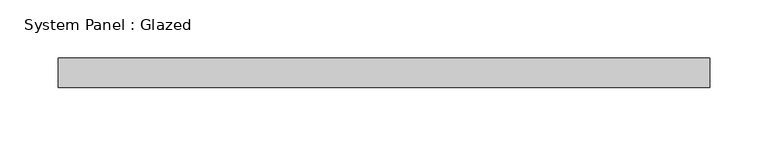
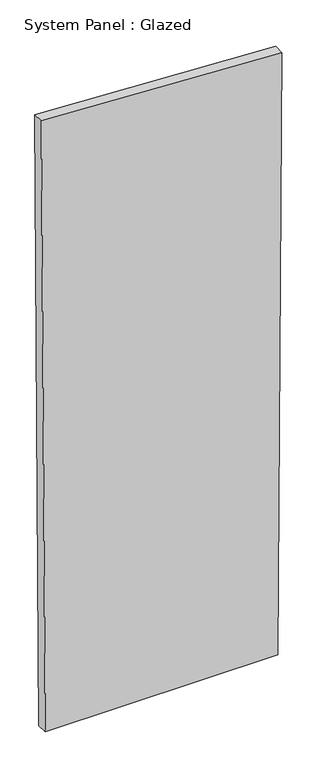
"""IFC4 building model written with IfcOpenShell, lengths in millimetres: plate geometry, System Panel : Glazed."""

import ifcopenshell
import ifcopenshell.guid

model = None  # the IFC model being written
_history = None  # IfcOwnerHistory: only IFC2X3 demands one
_inside = {}  # id of a spatial element -> (the spatial element, [elements in it])
_under = {}  # id of a project, library or spatial element -> (it, [spatial elements below it])
_declared = {}  # id of a project -> (the project, [libraries it declares])
_typed = {}  # id of a type object -> (the type object, [elements of that type])
_made_of = {}  # id of a material, layer set ... -> (it, [elements and type objects made of it])


def new_model(schema):
    """Start an empty IFC model of exactly this schema.

    Asked for "IFC4X3", IfcOpenShell would pick the latest addendum, in which some entities
    have other attributes; the version numbers below select the first issue.
    IFC2X3 requires an IfcOwnerHistory on every rooted entity: one is made here for all.
    """
    global model, _history
    if schema == "IFC4X3":
        model = ifcopenshell.file(schema_version=(4, 3, 0, 0))
    else:
        model = ifcopenshell.file(schema=schema)
    _inside.clear()
    _under.clear()
    _declared.clear()
    _typed.clear()
    _made_of.clear()
    _history = None
    if model.schema == "IFC2X3":
        org = make("IfcOrganization", Name="unknown")
        user = make(
            "IfcPersonAndOrganization",
            ThePerson=make("IfcPerson", FamilyName="unknown"),
            TheOrganization=org,
        )
        app = make(
            "IfcApplication",
            ApplicationDeveloper=org,
            Version="unknown",
            ApplicationFullName="unknown",
            ApplicationIdentifier="unknown",
        )
        _history = make(
            "IfcOwnerHistory",
            OwningUser=user,
            OwningApplication=app,
            ChangeAction="ADDED",
            CreationDate=0,
        )
    return model


def make(cls, **values):
    """One entity of the class cls with the attributes given. An attribute that is None is left unset."""
    return model.create_entity(
        cls, **{name: value for name, value in values.items() if value is not None}
    )


def rooted(cls, **values):
    """An entity with a GlobalId (a new one), such as an element, a storey or a relation."""
    return make(cls, GlobalId=ifcopenshell.guid.new(), OwnerHistory=_history, **values)


def si_unit(unit_type, name, prefix=None):
    """IfcSIUnit, for example si_unit("LENGTHUNIT", "METRE", prefix="MILLI")."""
    return make("IfcSIUnit", UnitType=unit_type, Prefix=prefix, Name=name)


def assignment(units):
    """IfcUnitAssignment: the units of a project."""
    return None if units is None else make("IfcUnitAssignment", Units=units)


def point(xyz):
    """IfcCartesianPoint."""
    return None if xyz is None else make("IfcCartesianPoint", Coordinates=xyz)


def direction(xyz):
    """IfcDirection."""
    return None if xyz is None else make("IfcDirection", DirectionRatios=xyz)


def frame(location, z_axis=None, x_axis=None):
    """IfcAxis2Placement3D, a coordinate frame: its origin and axes. An axis left out is left unset."""
    return make(
        "IfcAxis2Placement3D",
        Location=point(location),
        Axis=direction(z_axis),
        RefDirection=direction(x_axis),
    )


def origin():
    """The frame at (0, 0, 0) with its axes left unset."""
    return frame((0.0, 0.0, 0.0))


def place(relative_to, where):
    """IfcLocalPlacement: puts the frame where relative to a parent placement (None: the world)."""
    return make(
        "IfcLocalPlacement", PlacementRelTo=relative_to, RelativePlacement=where
    )


def context(
    kind, dimensions, precision=None, world=None, true_north=None, identifier=None
):
    """IfcGeometricRepresentationContext, for example the 3D "Model" context."""
    return make(
        "IfcGeometricRepresentationContext",
        ContextIdentifier=identifier,
        ContextType=kind,
        CoordinateSpaceDimension=dimensions,
        Precision=precision,
        WorldCoordinateSystem=world,
        TrueNorth=true_north,
    )


def project(units=None, contexts=None):
    """IfcProject with its units and contexts."""
    return rooted(
        "IfcProject",
        Name="project",
        RepresentationContexts=contexts,
        UnitsInContext=assignment(units),
    )


def spatial(cls, under=None, at=None, **own):
    """A site, building, storey or space (cls), placed at a placement, below another one or the project."""
    s = rooted(cls, ObjectPlacement=at, **own)
    if under is not None:
        _under.setdefault(under.id(), (under, []))[1].append(s)
    return s


def polyline(points):
    """IfcPolyline through the points."""
    return make("IfcPolyline", Points=[point(p) for p in points])


def outline(outer, holes=None, kind="AREA"):
    """IfcArbitraryClosedProfileDef: a profile drawn as a closed curve; with holes, ...WithVoids."""
    if holes is None:
        return make("IfcArbitraryClosedProfileDef", ProfileType=kind, OuterCurve=outer)
    return make(
        "IfcArbitraryProfileDefWithVoids",
        ProfileType=kind,
        OuterCurve=outer,
        InnerCurves=holes,
    )


def extrude(swept, where, along, depth):
    """IfcExtrudedAreaSolid: the profile swept, set in the frame where, extruded along a direction by depth."""
    return make(
        "IfcExtrudedAreaSolid",
        SweptArea=swept,
        Position=where,
        ExtrudedDirection=direction(along),
        Depth=depth,
    )


def shape(context_of_items, identifier, shape_type, items):
    """IfcShapeRepresentation: the items that make up one representation, for example the "Body"."""
    return make(
        "IfcShapeRepresentation",
        ContextOfItems=context_of_items,
        RepresentationIdentifier=identifier,
        RepresentationType=shape_type,
        Items=items,
    )


def source(mapping_origin, context_of_items, identifier, shape_type, items):
    """IfcRepresentationMap: a shape defined once, which mapped items show again and again."""
    return make(
        "IfcRepresentationMap",
        MappingOrigin=mapping_origin,
        MappedRepresentation=shape(context_of_items, identifier, shape_type, items),
    )


def transform(
    local_origin,
    x_axis=None,
    y_axis=None,
    z_axis=None,
    scale=None,
    scale2=None,
    scale3=None,
    uniform=True,
):
    """IfcCartesianTransformationOperator3D, or its non-uniform kind. x_axis, y_axis, z_axis: its Axis1, 2, 3."""
    if uniform:
        return make(
            "IfcCartesianTransformationOperator3D",
            Axis1=direction(x_axis),
            Axis2=direction(y_axis),
            LocalOrigin=point(local_origin),
            Scale=scale,
            Axis3=direction(z_axis),
        )
    return make(
        "IfcCartesianTransformationOperator3DnonUniform",
        Axis1=direction(x_axis),
        Axis2=direction(y_axis),
        LocalOrigin=point(local_origin),
        Scale=scale,
        Axis3=direction(z_axis),
        Scale2=scale2,
        Scale3=scale3,
    )


def mapped(mapping_source, mapping_target):
    """IfcMappedItem: shows the shape of a source again, moved by a transform."""
    return make(
        "IfcMappedItem", MappingSource=mapping_source, MappingTarget=mapping_target
    )


def made_of(thing, what):
    """Note that an element or type object is made of a material, layer set ...; save() writes the relation."""
    if what is not None:
        _made_of.setdefault(what.id(), (what, []))[1].append(thing)
    return thing


def element(
    cls,
    number,
    at=None,
    inside=None,
    cuts=None,
    type_object=None,
    material=None,
    context=None,
    identifier="Body",
    shape_type=None,
    held_by="IfcProductDefinitionShape",
    body=None,
    shapes=None,
    **own,
):
    """One element of the class cls, such as IfcWall. Its Tag is "e" and its number.

    at: its placement. inside: the storey or other place that contains it. cuts: it is an
    opening in that element (IfcRelVoidsElement). A single representation is given by context,
    identifier, shape_type and body (its items); several are given by shapes. held_by: the class
    of the entity that holds the representations. save() writes the other relations.
    """
    e = rooted(cls, Tag="e%d" % number, ObjectPlacement=at, **own)
    if body is not None:
        shapes = [shape(context, identifier, shape_type, body)]
    if shapes is not None:
        e.Representation = make(held_by, Representations=shapes)
    if inside is not None:
        _inside.setdefault(inside.id(), (inside, []))[1].append(e)
    if cuts is not None:
        rooted(
            "IfcRelVoidsElement", RelatingBuildingElement=cuts, RelatedOpeningElement=e
        )
    if type_object is not None:
        _typed.setdefault(type_object.id(), (type_object, []))[1].append(e)
    return made_of(e, material)


def aggregate(whole, parts):
    """IfcRelAggregates: a whole, such as a stair, and the parts it consists of."""
    return rooted("IfcRelAggregates", RelatingObject=whole, RelatedObjects=parts)


def save(model, path):
    """Write the relations noted so far, then the file.

    IfcRelAggregates (storeys below a building ...), IfcRelContainedInSpatialStructure (elements
    in a storey), IfcRelDefinesByType, IfcRelAssociatesMaterial and IfcRelDeclares: one each for
    every whole, place, type object, material and project.
    """
    for whole, parts in _under.values():
        aggregate(whole, parts)
    for where, things in _inside.values():
        rooted(
            "IfcRelContainedInSpatialStructure",
            RelatedElements=things,
            RelatingStructure=where,
        )
    for kind, things in _typed.values():
        rooted("IfcRelDefinesByType", RelatedObjects=things, RelatingType=kind)
    for what, things in _made_of.values():
        rooted("IfcRelAssociatesMaterial", RelatedObjects=things, RelatingMaterial=what)
    for by, libraries in _declared.values():
        rooted("IfcRelDeclares", RelatingContext=by, RelatedDefinitions=libraries)
    model.write(path)


def system_panel_glazed_1bc72f1c(model_context):
    return source(origin(), model_context, "Body", "SweptSolid", [
        extrude(outline(polyline([(0.0, -270.8531498), (0.0, 270.8410642), (1478.2564151, 280.0873257), (1506.7225792, -280.0873257), (0.0, -270.8531498)])), frame((0.0, -44.45, 0.0), z_axis=(0.0, 1.0, 0.0), x_axis=(0.0, 0.0, 1.0)), (0.0, 0.0, 1.0), 25.4),
    ])


if __name__ == "__main__":
    model = new_model("IFC4")
    model_context = context("Model", 3, world=origin())
    ifc_project = project(units=[si_unit("LENGTHUNIT", "METRE", prefix="MILLI")], contexts=[model_context])
    site = spatial("IfcSite", under=ifc_project)
    building = spatial("IfcBuilding", under=site)
    placement = place(None, origin())
    system_panel_glazed_shape = system_panel_glazed_1bc72f1c(model_context)
    element("IfcPlate", 1, ObjectType="System Panel : Glazed", at=placement, inside=building, context=model_context, shape_type="MappedRepresentation", body=[
        mapped(system_panel_glazed_shape, transform((0.0, 0.0, 0.0), x_axis=(1.0, 0.0, 0.0), y_axis=(0.0, 1.0, 0.0), z_axis=(0.0, 0.0, 1.0))),
    ])
    save(model, "model.ifc")
